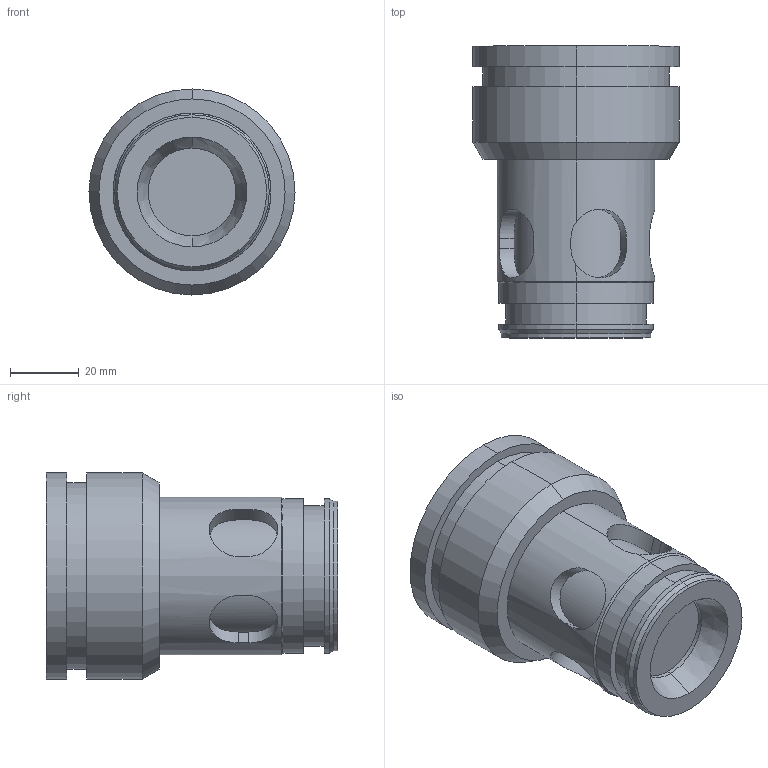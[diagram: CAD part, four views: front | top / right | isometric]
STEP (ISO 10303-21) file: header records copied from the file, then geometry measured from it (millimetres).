
FILE_DESCRIPTION (( 'STEP AP214' ), '1' );
FILE_NAME ('C.EN32-15.STEP', '2018-10-10T09:29:52', ( '' ), ( '' ), 'SwSTEP 2.0', 'SolidWorks 2016', '' );
FILE_SCHEMA (( 'AUTOMOTIVE_DESIGN' ));
Length unit declared in the file: millimetre
Products named in the file (2): C.EN32-15
Bounding box: 60 x 85 x 60 mm (x, y, z)
Volume: 147332.6 mm3; surface area: 32449.4 mm2
Topology: 2 solids, 2 shells, 80 faces, 175 edges, 112 vertices
Faces by surface type: cylinder 46, plane 24, cone 10
Entity records: 4005 total; most frequent: CARTESIAN_POINT 1291, DIRECTION 379, ORIENTED_EDGE 350, EDGE_CURVE 175, AXIS2_PLACEMENT_3D 148, VERTEX_POINT 112, EDGE_LOOP 95, UNCERTAINTY_MEASURE_WITH_UNIT 84
